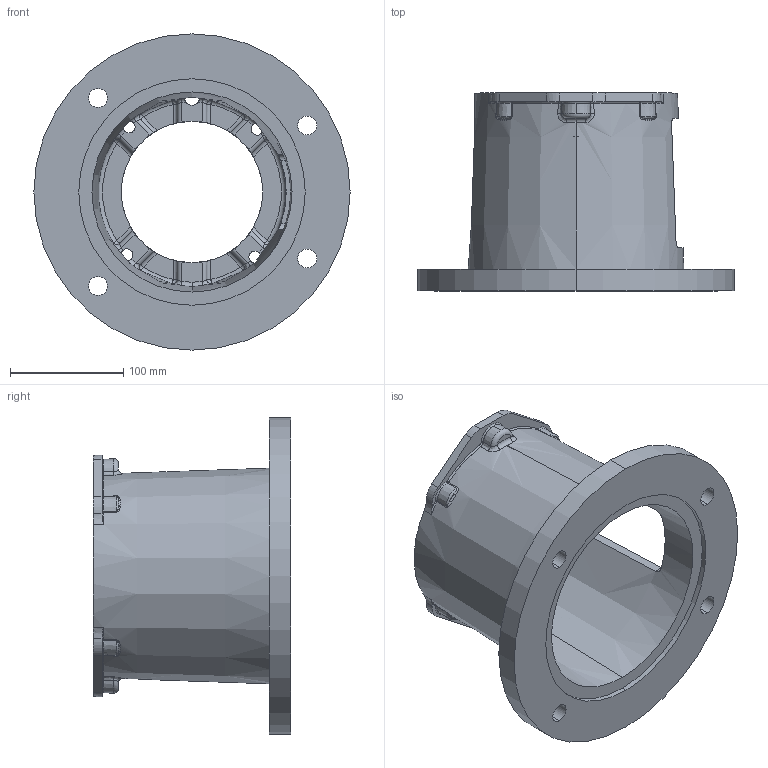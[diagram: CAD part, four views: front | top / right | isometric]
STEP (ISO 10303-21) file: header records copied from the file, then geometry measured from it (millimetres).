
FILE_DESCRIPTION (( 'STEP AP203' ), '1' );
FILE_NAME ('E78768125M.STEP', '2014-11-04T13:52:49', ( '' ), ( '' ), 'SwSTEP 2.0', 'SolidWorks 2014', '' );
FILE_SCHEMA (( 'CONFIG_CONTROL_DESIGN' ));
Length unit declared in the file: inch
Products named in the file (1): E78768125M
Bounding box: 279.4 x 174.75 x 279.4 mm (x, y, z)
Volume: 1382336 mm3; surface area: 296321.1 mm2
Topology: 1 solids, 1 shells, 319 faces, 856 edges, 519 vertices
Faces by surface type: cylinder 86, torus 73, bspline 64, plane 50, sphere 24, cone 22
Entity records: 13846 total; most frequent: CARTESIAN_POINT 6369, ORIENTED_EDGE 1684, DIRECTION 1471, EDGE_CURVE 842, AXIS2_PLACEMENT_3D 659, VERTEX_POINT 519, CIRCLE 403, EDGE_LOOP 339
